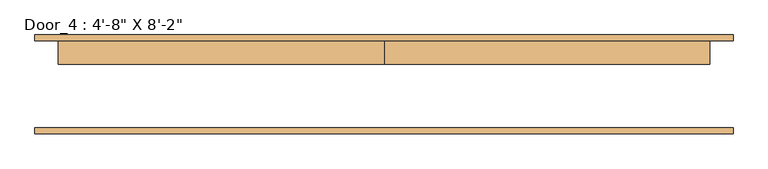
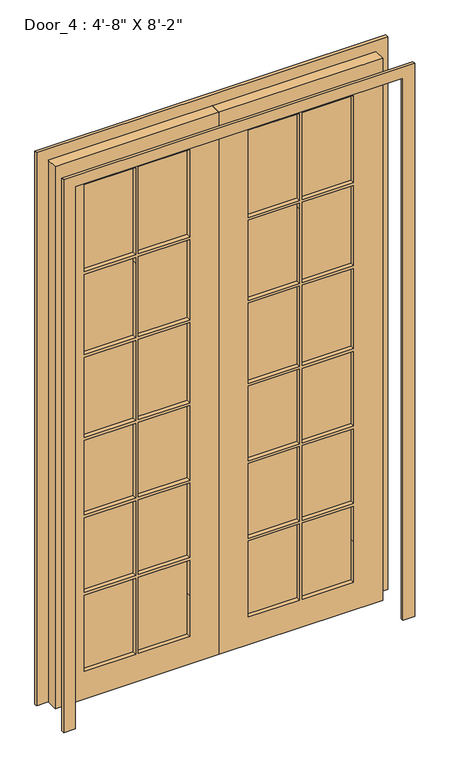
"""IFC4 building model written with IfcOpenShell, lengths in millimetres: door geometry."""

from ifc_helpers import new_model, si_unit, frame, origin, place, context, project, spatial, polyline, outline, extrude, source, transform, mapped, element, save


def door_70bb29d6(model_context):
    return source(origin(), model_context, "Body", "SweptSolid", [
        extrude(outline(polyline([(-349.25, 78.58125), (-127.0, 78.58125), (-127.0, 65.88125), (-349.25, 65.88125), (-349.25, 78.58125)])), frame((0.0, 0.0, 1962.15), z_axis=(0.0, 0.0, 1.0), x_axis=(1.0, 0.0, 0.0)), (0.0, 0.0, 1.0), 400.05),
        extrude(outline(polyline([(-584.2, 78.58125), (-361.95, 78.58125), (-361.95, 65.88125), (-584.2, 65.88125), (-584.2, 78.58125)])), frame((0.0, 0.0, 1962.15), z_axis=(0.0, 0.0, 1.0), x_axis=(1.0, 0.0, 0.0)), (0.0, 0.0, 1.0), 400.05),
        extrude(outline(polyline([(1949.45, -584.2), (1581.15, -584.2), (1581.15, -361.95), (1924.05, -361.95), (1949.45, -361.95), (1949.45, -584.2)])), frame((0.0, 65.88125, 0.0), z_axis=(0.0, 1.0, 0.0), x_axis=(0.0, 0.0, 1.0)), (0.0, 0.0, 1.0), 12.7),
        extrude(outline(polyline([(1949.45, -349.25), (1924.05, -349.25), (1581.15, -349.25), (1581.15, -127.0), (1949.45, -127.0), (1949.45, -349.25)])), frame((0.0, 65.88125, 0.0), z_axis=(0.0, 1.0, 0.0), x_axis=(0.0, 0.0, 1.0)), (0.0, 0.0, 1.0), 12.7),
        extrude(outline(polyline([(-349.25, 78.58125), (-127.0, 78.58125), (-127.0, 65.88125), (-349.25, 65.88125), (-349.25, 78.58125)])), frame((0.0, 0.0, 1200.15), z_axis=(0.0, 0.0, 1.0), x_axis=(1.0, 0.0, 0.0)), (0.0, 0.0, 1.0), 368.3),
        extrude(outline(polyline([(-584.2, 78.58125), (-361.95, 78.58125), (-361.95, 65.88125), (-584.2, 65.88125), (-584.2, 78.58125)])), frame((0.0, 0.0, 1200.15), z_axis=(0.0, 0.0, 1.0), x_axis=(1.0, 0.0, 0.0)), (0.0, 0.0, 1.0), 368.3),
        extrude(outline(polyline([(-349.25, 78.58125), (-127.0, 78.58125), (-127.0, 65.88125), (-349.25, 65.88125), (-349.25, 78.58125)])), frame((0.0, 0.0, 844.55), z_axis=(0.0, 0.0, 1.0), x_axis=(1.0, 0.0, 0.0)), (0.0, 0.0, 1.0), 342.9),
        extrude(outline(polyline([(-584.2, 78.58125), (-361.95, 78.58125), (-361.95, 65.88125), (-584.2, 65.88125), (-584.2, 78.58125)])), frame((0.0, 0.0, 844.55), z_axis=(0.0, 0.0, 1.0), x_axis=(1.0, 0.0, 0.0)), (0.0, 0.0, 1.0), 342.9),
        extrude(outline(polyline([(-584.2, 78.58125), (-361.95, 78.58125), (-361.95, 65.88125), (-584.2, 65.88125), (-584.2, 78.58125)])), frame((0.0, 0.0, 488.95), z_axis=(0.0, 0.0, 1.0), x_axis=(1.0, 0.0, 0.0)), (0.0, 0.0, 1.0), 342.9),
        extrude(outline(polyline([(-349.25, 78.58125), (-127.0, 78.58125), (-127.0, 65.88125), (-349.25, 65.88125), (-349.25, 78.58125)])), frame((0.0, 0.0, 488.95), z_axis=(0.0, 0.0, 1.0), x_axis=(1.0, 0.0, 0.0)), (0.0, 0.0, 1.0), 342.9),
        extrude(outline(polyline([(476.25, -349.25), (127.0, -349.25), (127.0, -127.0), (314.5942859, -127.0), (476.25, -127.0), (476.25, -349.25)])), frame((0.0, 65.88125, 0.0), z_axis=(0.0, 1.0, 0.0), x_axis=(0.0, 0.0, 1.0)), (0.0, 0.0, 1.0), 12.7),
        extrude(outline(polyline([(476.25, -584.2), (425.45, -584.2), (127.0, -584.2), (127.0, -361.95), (476.25, -361.95), (476.25, -584.2)])), frame((0.0, 65.88125, 0.0), z_axis=(0.0, 1.0, 0.0), x_axis=(0.0, 0.0, 1.0)), (0.0, 0.0, 1.0), 12.7),
        extrude(outline(polyline([(361.95, 78.58125), (584.2, 78.58125), (584.2, 65.88125), (361.95, 65.88125), (361.95, 78.58125)])), frame((0.0, 0.0, 1962.15), z_axis=(0.0, 0.0, 1.0), x_axis=(1.0, 0.0, 0.0)), (0.0, 0.0, 1.0), 400.05),
        extrude(outline(polyline([(127.0, 78.58125), (349.25, 78.58125), (349.25, 65.88125), (127.0, 65.88125), (127.0, 78.58125)])), frame((0.0, 0.0, 1962.15), z_axis=(0.0, 0.0, 1.0), x_axis=(1.0, 0.0, 0.0)), (0.0, 0.0, 1.0), 400.05),
        extrude(outline(polyline([(1949.45, 127.0), (1581.15, 127.0), (1581.15, 349.25), (1924.05, 349.25), (1949.45, 349.25), (1949.45, 127.0)])), frame((0.0, 65.88125, 0.0), z_axis=(0.0, 1.0, 0.0), x_axis=(0.0, 0.0, 1.0)), (0.0, 0.0, 1.0), 12.7),
        extrude(outline(polyline([(1949.45, 361.95), (1924.05, 361.95), (1581.15, 361.95), (1581.15, 584.2), (1949.45, 584.2), (1949.45, 361.95)])), frame((0.0, 65.88125, 0.0), z_axis=(0.0, 1.0, 0.0), x_axis=(0.0, 0.0, 1.0)), (0.0, 0.0, 1.0), 12.7),
        extrude(outline(polyline([(361.95, 78.58125), (584.2, 78.58125), (584.2, 65.88125), (361.95, 65.88125), (361.95, 78.58125)])), frame((0.0, 0.0, 1200.15), z_axis=(0.0, 0.0, 1.0), x_axis=(1.0, 0.0, 0.0)), (0.0, 0.0, 1.0), 368.3),
        extrude(outline(polyline([(127.0, 78.58125), (349.25, 78.58125), (349.25, 65.88125), (127.0, 65.88125), (127.0, 78.58125)])), frame((0.0, 0.0, 1200.15), z_axis=(0.0, 0.0, 1.0), x_axis=(1.0, 0.0, 0.0)), (0.0, 0.0, 1.0), 368.3),
        extrude(outline(polyline([(127.0, 78.58125), (349.25, 78.58125), (349.25, 65.88125), (127.0, 65.88125), (127.0, 78.58125)])), frame((0.0, 0.0, 844.55), z_axis=(0.0, 0.0, 1.0), x_axis=(1.0, 0.0, 0.0)), (0.0, 0.0, 1.0), 342.9),
        extrude(outline(polyline([(361.95, 78.58125), (584.2, 78.58125), (584.2, 65.88125), (361.95, 65.88125), (361.95, 78.58125)])), frame((0.0, 0.0, 844.55), z_axis=(0.0, 0.0, 1.0), x_axis=(1.0, 0.0, 0.0)), (0.0, 0.0, 1.0), 342.9),
        extrude(outline(polyline([(361.95, 78.58125), (584.2, 78.58125), (584.2, 65.88125), (361.95, 65.88125), (361.95, 78.58125)])), frame((0.0, 0.0, 488.95), z_axis=(0.0, 0.0, 1.0), x_axis=(1.0, 0.0, 0.0)), (0.0, 0.0, 1.0), 342.9),
        extrude(outline(polyline([(127.0, 78.58125), (349.25, 78.58125), (349.25, 65.88125), (127.0, 65.88125), (127.0, 78.58125)])), frame((0.0, 0.0, 488.95), z_axis=(0.0, 0.0, 1.0), x_axis=(1.0, 0.0, 0.0)), (0.0, 0.0, 1.0), 342.9),
        extrude(outline(polyline([(476.25, 361.95), (127.0, 361.95), (127.0, 584.2), (314.5942859, 584.2), (476.25, 584.2), (476.25, 361.95)])), frame((0.0, 65.88125, 0.0), z_axis=(0.0, 1.0, 0.0), x_axis=(0.0, 0.0, 1.0)), (0.0, 0.0, 1.0), 12.7),
        extrude(outline(polyline([(476.25, 127.0), (425.45, 127.0), (127.0, 127.0), (127.0, 349.25), (476.25, 349.25), (476.25, 127.0)])), frame((0.0, 65.88125, 0.0), z_axis=(0.0, 1.0, 0.0), x_axis=(0.0, 0.0, 1.0)), (0.0, 0.0, 1.0), 12.7),
        extrude(outline(polyline([(0.0, 762.0), (2540.0, 762.0), (2540.0, -762.0), (0.0, -762.0), (0.0, -711.2), (2489.2, -711.2), (2489.2, 711.2), (0.0, 711.2), (0.0, 762.0)])), frame((0.0, 97.63125, 0.0), z_axis=(0.0, 1.0, 0.0), x_axis=(0.0, 0.0, 1.0)), (0.0, 0.0, 1.0), 12.7),
        extrude(outline(polyline([(2489.2, -711.2), (0.0, -711.2), (0.0, 0.0), (2489.2, 0.0), (2489.2, -711.2)]), holes=[polyline([(2362.2, -127.0), (1962.15, -127.0), (1962.15, -349.25), (2362.2, -349.25), (2362.2, -127.0)]), polyline([(2362.2, -584.2), (2362.2, -361.95), (1962.15, -361.95), (1962.15, -584.2), (2362.2, -584.2)]), polyline([(1949.45, -349.25), (1949.45, -127.0), (1581.15, -127.0), (1581.15, -349.25), (1924.05, -349.25), (1949.45, -349.25)]), polyline([(1949.45, -584.2), (1949.45, -361.95), (1924.05, -361.95), (1581.15, -361.95), (1581.15, -584.2), (1949.45, -584.2)]), polyline([(1568.45, -349.25), (1568.45, -127.0), (1200.15, -127.0), (1200.15, -349.25), (1568.45, -349.25)]), polyline([(1568.45, -584.2), (1568.45, -361.95), (1200.15, -361.95), (1200.15, -584.2), (1568.45, -584.2)]), polyline([(1187.45, -349.25), (1187.45, -127.0), (844.55, -127.0), (844.55, -349.25), (1187.45, -349.25)]), polyline([(1187.45, -584.2), (1187.45, -361.95), (844.55, -361.95), (844.55, -584.2), (1187.45, -584.2)]), polyline([(831.85, -349.25), (831.85, -127.0), (488.95, -127.0), (488.95, -349.25), (831.85, -349.25)]), polyline([(831.85, -584.2), (831.85, -361.95), (488.95, -361.95), (488.95, -584.2), (831.85, -584.2)]), polyline([(476.25, -349.25), (476.25, -127.0), (314.5942859, -127.0), (127.0, -127.0), (127.0, -349.25), (476.25, -349.25)]), polyline([(476.25, -584.2), (476.25, -361.95), (127.0, -361.95), (127.0, -584.2), (425.45, -584.2), (476.25, -584.2)])]), frame((0.0, 46.83125, 0.0), z_axis=(0.0, 1.0, 0.0), x_axis=(0.0, 0.0, 1.0)), (0.0, 0.0, 1.0), 50.8),
        extrude(outline(polyline([(0.0, 762.0), (2540.0, 762.0), (2540.0, -762.0), (0.0, -762.0), (0.0, -711.2), (2489.2, -711.2), (2489.2, 711.2), (0.0, 711.2), (0.0, 762.0)])), frame((0.0, -105.56875, 0.0), z_axis=(0.0, 1.0, 0.0), x_axis=(0.0, 0.0, 1.0)), (0.0, 0.0, 1.0), 12.7),
        extrude(outline(polyline([(2489.2, 711.2), (2489.2, 0.0), (0.0, 0.0), (0.0, 711.2), (2489.2, 711.2)]), holes=[polyline([(2362.2, 349.25), (1962.15, 349.25), (1962.15, 127.0), (2362.2, 127.0), (2362.2, 349.25)]), polyline([(127.0, 349.25), (127.0, 127.0), (425.45, 127.0), (476.25, 127.0), (476.25, 349.25), (127.0, 349.25)]), polyline([(1962.15, 584.2), (1962.15, 361.95), (2362.2, 361.95), (2362.2, 584.2), (1962.15, 584.2)]), polyline([(1949.45, 349.25), (1924.05, 349.25), (1581.15, 349.25), (1581.15, 127.0), (1949.45, 127.0), (1949.45, 349.25)]), polyline([(1581.15, 361.95), (1924.05, 361.95), (1949.45, 361.95), (1949.45, 584.2), (1581.15, 584.2), (1581.15, 361.95)]), polyline([(127.0, 584.2), (127.0, 361.95), (476.25, 361.95), (476.25, 584.2), (314.5942859, 584.2), (127.0, 584.2)]), polyline([(1568.45, 361.95), (1568.45, 584.2), (1200.15, 584.2), (1200.15, 361.95), (1568.45, 361.95)]), polyline([(1200.15, 349.25), (1200.15, 127.0), (1568.45, 127.0), (1568.45, 349.25), (1200.15, 349.25)]), polyline([(1187.45, 361.95), (1187.45, 584.2), (844.55, 584.2), (844.55, 361.95), (1187.45, 361.95)]), polyline([(844.55, 349.25), (844.55, 127.0), (1187.45, 127.0), (1187.45, 349.25), (844.55, 349.25)]), polyline([(831.85, 361.95), (831.85, 584.2), (488.95, 584.2), (488.95, 361.95), (831.85, 361.95)]), polyline([(488.95, 349.25), (488.95, 127.0), (831.85, 127.0), (831.85, 349.25), (488.95, 349.25)])]), frame((0.0, 46.83125, 0.0), z_axis=(0.0, 1.0, 0.0), x_axis=(0.0, 0.0, 1.0)), (0.0, 0.0, 1.0), 50.8),
    ])


if __name__ == "__main__":
    model = new_model("IFC4")
    model_context = context("Model", 3, world=origin())
    ifc_project = project(units=[si_unit("LENGTHUNIT", "METRE", prefix="MILLI")], contexts=[model_context])
    site = spatial("IfcSite", under=ifc_project)
    building = spatial("IfcBuilding", under=site)
    placement = place(None, origin())
    door_shape = door_70bb29d6(model_context)
    element("IfcDoor", 1, ObjectType="Door_4 : 4'-8\" X 8'-2\"", at=placement, inside=building, context=model_context, shape_type="MappedRepresentation", body=[
        mapped(door_shape, transform((0.0, 0.0, 0.0), x_axis=(1.0, 0.0, 0.0), y_axis=(0.0, 1.0, 0.0), z_axis=(0.0, 0.0, 1.0))),
    ])
    save(model, "model.ifc")
